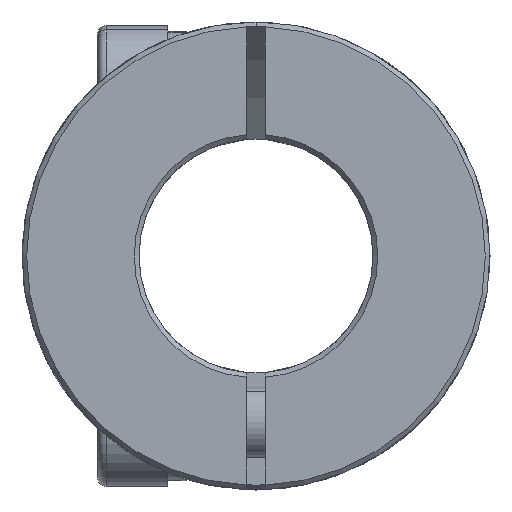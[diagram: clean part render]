
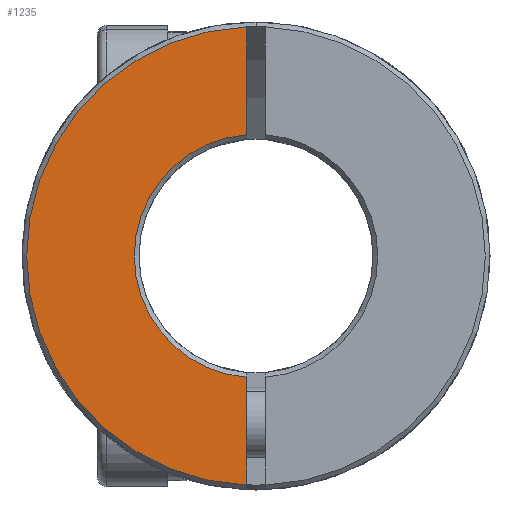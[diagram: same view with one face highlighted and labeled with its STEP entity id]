
A CAD part, front view. The second image highlights one B-rep face of the part: STEP entity #1235.
In plain terms, the highlighted planar face has unit normal (0, -1, 0).
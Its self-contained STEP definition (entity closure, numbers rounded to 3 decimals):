
#299 = ORIENTED_EDGE ( 'NONE', *, *, #1932, .T. ) ;
#309 = EDGE_LOOP ( 'NONE', ( #2476, #299, #4055, #1195 ) ) ;
#369 = FACE_OUTER_BOUND ( 'NONE', #309, .T. ) ;
#506 = DIRECTION ( 'NONE',  ( 0., 0., -1. ) ) ;
#861 = CARTESIAN_POINT ( 'NONE',  ( -0.4, -17.5, -9.792 ) ) ;
#1195 = ORIENTED_EDGE ( 'NONE', *, *, #4098, .T. ) ;
#1212 = VERTEX_POINT ( 'NONE', #7003 ) ;
#1235 = ADVANCED_FACE ( 'NONE', ( #369 ), #2889, .F. ) ;
#1257 = LINE ( 'NONE', #7404, #6390 ) ;
#1429 = LINE ( 'NONE', #1431, #4104 ) ;
#1431 = CARTESIAN_POINT ( 'NONE',  ( -0.4, -17.5, 0. ) ) ;
#1790 = CARTESIAN_POINT ( 'NONE',  ( -0.4, -17.5, 5.185 ) ) ;
#1932 = EDGE_CURVE ( 'NONE', #5210, #2650, #7310, .T. ) ;
#2052 = CARTESIAN_POINT ( 'NONE',  ( 0., -17.5, 0. ) ) ;
#2383 = DIRECTION ( 'NONE',  ( 0., -1., 0. ) ) ;
#2406 = CARTESIAN_POINT ( 'NONE',  ( 0., -17.5, 0. ) ) ;
#2476 = ORIENTED_EDGE ( 'NONE', *, *, #3938, .F. ) ;
#2522 = DIRECTION ( 'NONE',  ( 0., 0., 1. ) ) ;
#2650 = VERTEX_POINT ( 'NONE', #861 ) ;
#2808 = VERTEX_POINT ( 'NONE', #1790 ) ;
#2889 = PLANE ( 'NONE',  #6898 ) ;
#3154 = EDGE_CURVE ( 'NONE', #1212, #2650, #1257, .T. ) ;
#3360 = CARTESIAN_POINT ( 'NONE',  ( -0.4, -17.5, 9.792 ) ) ;
#3938 = EDGE_CURVE ( 'NONE', #5210, #2808, #1429, .T. ) ;
#4055 = ORIENTED_EDGE ( 'NONE', *, *, #3154, .F. ) ;
#4098 = EDGE_CURVE ( 'NONE', #1212, #2808, #5583, .T. ) ;
#4104 = VECTOR ( 'NONE', #7122, 1000. ) ;
#4199 = DIRECTION ( 'NONE',  ( 0., 1., 0. ) ) ;
#4232 = AXIS2_PLACEMENT_3D ( 'NONE', #2406, #2383, #6358 ) ;
#4855 = DIRECTION ( 'NONE',  ( 0., 1., 0. ) ) ;
#5210 = VERTEX_POINT ( 'NONE', #3360 ) ;
#5398 = DIRECTION ( 'NONE',  ( 0., 0., 1. ) ) ;
#5418 = AXIS2_PLACEMENT_3D ( 'NONE', #2052, #4855, #5398 ) ;
#5583 = CIRCLE ( 'NONE', #5418, 5.2 ) ;
#5949 = CARTESIAN_POINT ( 'NONE',  ( 0., -17.5, 0. ) ) ;
#6358 = DIRECTION ( 'NONE',  ( 0., 0., 1. ) ) ;
#6390 = VECTOR ( 'NONE', #506, 1000. ) ;
#6898 = AXIS2_PLACEMENT_3D ( 'NONE', #5949, #4199, #2522 ) ;
#7003 = CARTESIAN_POINT ( 'NONE',  ( -0.4, -17.5, -5.185 ) ) ;
#7122 = DIRECTION ( 'NONE',  ( 0., 0., -1. ) ) ;
#7310 = CIRCLE ( 'NONE', #4232, 9.8 ) ;
#7404 = CARTESIAN_POINT ( 'NONE',  ( -0.4, -17.5, 0. ) ) ;
